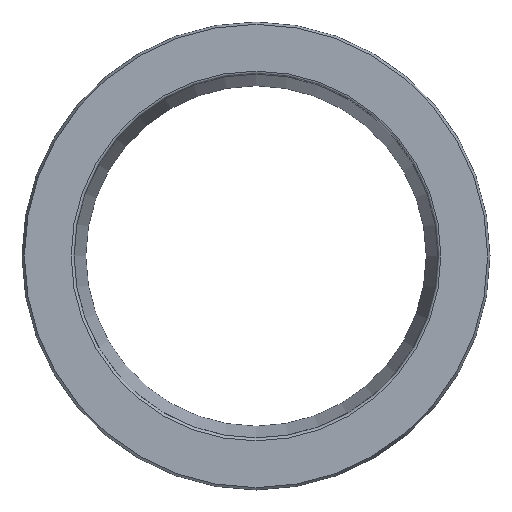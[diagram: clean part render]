
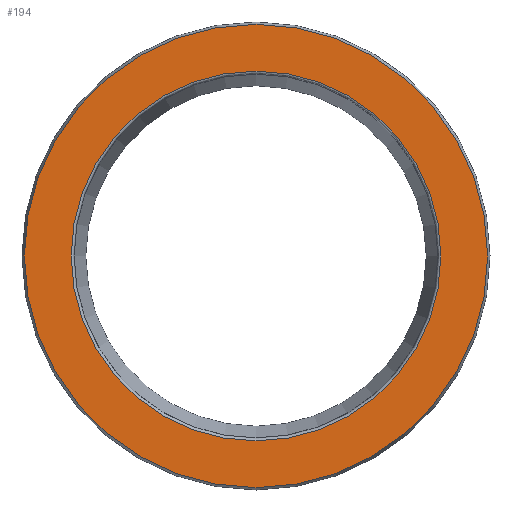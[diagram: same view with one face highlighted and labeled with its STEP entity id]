
A CAD part, left-side view. The second image highlights one B-rep face of the part: STEP entity #194.
In plain terms, the highlighted planar face has unit normal (-1, 0, 0).
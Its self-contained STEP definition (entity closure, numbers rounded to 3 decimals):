
#194 = ADVANCED_FACE( '', ( #385, #386 ), #387, .T. );
#385 = FACE_BOUND( '', #557, .T. );
#386 = FACE_OUTER_BOUND( '', #558, .T. );
#387 = PLANE( '', #559 );
#557 = EDGE_LOOP( '', ( #786 ) );
#558 = EDGE_LOOP( '', ( #787 ) );
#559 = AXIS2_PLACEMENT_3D( '', #788, #789, #790 );
#786 = ORIENTED_EDGE( '', *, *, #828, .T. );
#787 = ORIENTED_EDGE( '', *, *, #841, .F. );
#788 = CARTESIAN_POINT( '', ( 0., 27.223, 0. ) );
#789 = DIRECTION( '', ( -1., 0., 0. ) );
#790 = DIRECTION( '', ( 0., 0., 1. ) );
#828 = EDGE_CURVE( '', #919, #919, #920, .T. );
#841 = EDGE_CURVE( '', #940, #940, #941, .T. );
#919 = VERTEX_POINT( '', #1034 );
#920 = CIRCLE( '', #1035, 21.723 );
#940 = VERTEX_POINT( '', #1055 );
#941 = CIRCLE( '', #1056, 27.223 );
#1034 = CARTESIAN_POINT( '', ( 0., 0., -21.723 ) );
#1035 = AXIS2_PLACEMENT_3D( '', #1153, #1154, #1155 );
#1055 = CARTESIAN_POINT( '', ( 0., 0., -27.223 ) );
#1056 = AXIS2_PLACEMENT_3D( '', #1177, #1178, #1179 );
#1153 = CARTESIAN_POINT( '', ( 0., 0., 0. ) );
#1154 = DIRECTION( '', ( 1., 0., 0. ) );
#1155 = DIRECTION( '', ( 0., 0., -1. ) );
#1177 = CARTESIAN_POINT( '', ( 0., 0., 0. ) );
#1178 = DIRECTION( '', ( 1., 0., 0. ) );
#1179 = DIRECTION( '', ( 0., 0., -1. ) );
